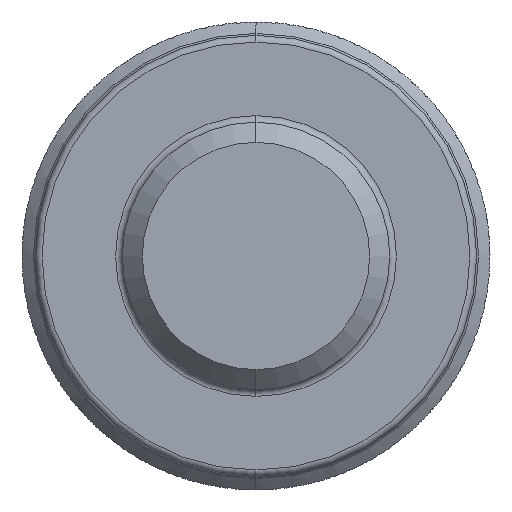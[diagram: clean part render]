
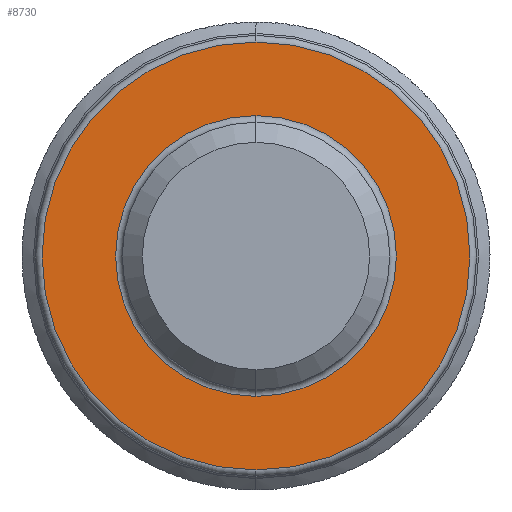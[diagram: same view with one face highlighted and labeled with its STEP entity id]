
A CAD part, front view. The second image highlights one B-rep face of the part: STEP entity #8730.
In plain terms, the highlighted planar face has unit normal (0, -1, 0).
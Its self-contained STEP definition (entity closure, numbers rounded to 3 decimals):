
#579 = VERTEX_POINT ( 'NONE', #9764 ) ;
#663 = DIRECTION ( 'NONE',  ( 0., 0., -1. ) ) ;
#700 = EDGE_CURVE ( 'NONE', #579, #6131, #2161, .T. ) ;
#817 = FACE_OUTER_BOUND ( 'NONE', #6440, .T. ) ;
#974 = CARTESIAN_POINT ( 'NONE',  ( 0., -4., 0. ) ) ;
#1078 = DIRECTION ( 'NONE',  ( 0., -1., 0. ) ) ;
#1163 = CARTESIAN_POINT ( 'NONE',  ( 0., -4., 0. ) ) ;
#1601 = ORIENTED_EDGE ( 'NONE', *, *, #5211, .T. ) ;
#1914 = EDGE_CURVE ( 'NONE', #4896, #2763, #3528, .T. ) ;
#2161 = CIRCLE ( 'NONE', #3038, 3.2 ) ;
#2562 = FACE_BOUND ( 'NONE', #7690, .T. ) ;
#2745 = DIRECTION ( 'NONE',  ( 0., 1., 0. ) ) ;
#2763 = VERTEX_POINT ( 'NONE', #6532 ) ;
#3038 = AXIS2_PLACEMENT_3D ( 'NONE', #974, #1078, #9117 ) ;
#3528 = CIRCLE ( 'NONE', #5075, 2.1 ) ;
#3539 = AXIS2_PLACEMENT_3D ( 'NONE', #6156, #4537, #3741 ) ;
#3741 = DIRECTION ( 'NONE',  ( 0., 0., -1. ) ) ;
#4537 = DIRECTION ( 'NONE',  ( 0., 1., 0. ) ) ;
#4890 = CARTESIAN_POINT ( 'NONE',  ( 2., -4., 0. ) ) ;
#4896 = VERTEX_POINT ( 'NONE', #7644 ) ;
#4902 = AXIS2_PLACEMENT_3D ( 'NONE', #1163, #5281, #5380 ) ;
#5075 = AXIS2_PLACEMENT_3D ( 'NONE', #10106, #2745, #663 ) ;
#5211 = EDGE_CURVE ( 'NONE', #6131, #579, #9178, .T. ) ;
#5281 = DIRECTION ( 'NONE',  ( 0., -1., 0. ) ) ;
#5380 = DIRECTION ( 'NONE',  ( 0., 0., -1. ) ) ;
#5412 = CIRCLE ( 'NONE', #3539, 2.1 ) ;
#5598 = EDGE_CURVE ( 'NONE', #2763, #4896, #5412, .T. ) ;
#6131 = VERTEX_POINT ( 'NONE', #7097 ) ;
#6156 = CARTESIAN_POINT ( 'NONE',  ( 0., -4., 0. ) ) ;
#6440 = EDGE_LOOP ( 'NONE', ( #10360, #1601 ) ) ;
#6532 = CARTESIAN_POINT ( 'NONE',  ( 0., -4., -2.1 ) ) ;
#7097 = CARTESIAN_POINT ( 'NONE',  ( 0., -4., 3.2 ) ) ;
#7406 = DIRECTION ( 'NONE',  ( 0., 0., -1. ) ) ;
#7644 = CARTESIAN_POINT ( 'NONE',  ( 0., -4., 2.1 ) ) ;
#7690 = EDGE_LOOP ( 'NONE', ( #8191, #7901 ) ) ;
#7901 = ORIENTED_EDGE ( 'NONE', *, *, #1914, .T. ) ;
#8191 = ORIENTED_EDGE ( 'NONE', *, *, #5598, .T. ) ;
#8566 = AXIS2_PLACEMENT_3D ( 'NONE', #4890, #10614, #7406 ) ;
#8730 = ADVANCED_FACE ( 'NONE', ( #2562, #817 ), #8851, .T. ) ;
#8851 = PLANE ( 'NONE',  #8566 ) ;
#9117 = DIRECTION ( 'NONE',  ( 0., 0., -1. ) ) ;
#9178 = CIRCLE ( 'NONE', #4902, 3.2 ) ;
#9764 = CARTESIAN_POINT ( 'NONE',  ( 0., -4., -3.2 ) ) ;
#10106 = CARTESIAN_POINT ( 'NONE',  ( 0., -4., 0. ) ) ;
#10360 = ORIENTED_EDGE ( 'NONE', *, *, #700, .T. ) ;
#10614 = DIRECTION ( 'NONE',  ( 0., -1., 0. ) ) ;
